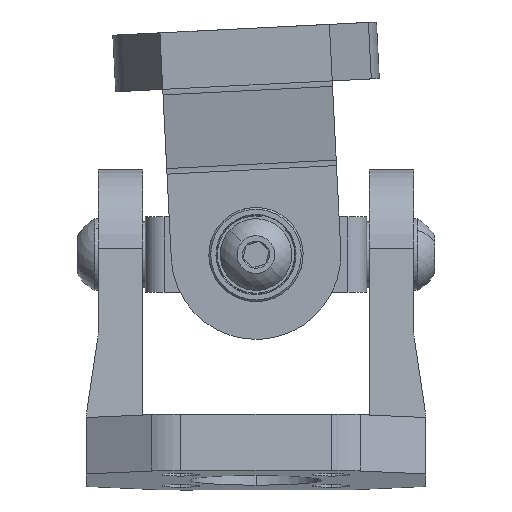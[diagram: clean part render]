
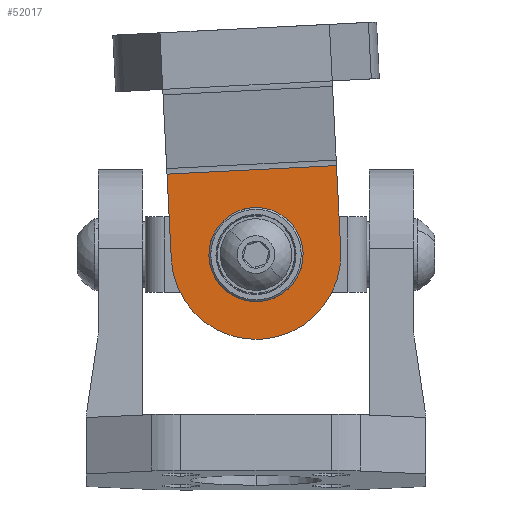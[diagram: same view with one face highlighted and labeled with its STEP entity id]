
A CAD part, left-side view. The second image highlights one B-rep face of the part: STEP entity #52017.
In plain terms, the highlighted planar face has unit normal (-1, 0, 0) as drawn and (1, 0, 0) by its records, which use the part's own axes.
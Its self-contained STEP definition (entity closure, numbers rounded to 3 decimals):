
#116 = AXIS2_PLACEMENT_3D ( 'NONE', #35561, #4139, #3969 ) ;
#1822 = VERTEX_POINT ( 'NONE', #19315 ) ;
#2246 = CARTESIAN_POINT ( 'NONE',  ( 16.75, 33., 5. ) ) ;
#3807 = VERTEX_POINT ( 'NONE', #20632 ) ;
#3969 = DIRECTION ( 'NONE',  ( 0., 1., 0. ) ) ;
#4139 = DIRECTION ( 'NONE',  ( -1., 0., 0. ) ) ;
#4805 = EDGE_CURVE ( 'NONE', #1822, #8804, #36177, .T. ) ;
#5341 = AXIS2_PLACEMENT_3D ( 'NONE', #35890, #48840, #32935 ) ;
#8804 = VERTEX_POINT ( 'NONE', #46533 ) ;
#11553 = ORIENTED_EDGE ( 'NONE', *, *, #41911, .T. ) ;
#13119 = LINE ( 'NONE', #34481, #51339 ) ;
#13415 = AXIS2_PLACEMENT_3D ( 'NONE', #37163, #17483, #33313 ) ;
#15828 = DIRECTION ( 'NONE',  ( -1., 0., 0. ) ) ;
#17483 = DIRECTION ( 'NONE',  ( 1., 0., 0. ) ) ;
#18143 = DIRECTION ( 'NONE',  ( 0., 0., -1. ) ) ;
#18787 = LINE ( 'NONE', #23048, #36424 ) ;
#19315 = CARTESIAN_POINT ( 'NONE',  ( 16.75, 33., 19. ) ) ;
#19604 = AXIS2_PLACEMENT_3D ( 'NONE', #35837, #15828, #43867 ) ;
#20489 = DIRECTION ( 'NONE',  ( 0., -1., 0. ) ) ;
#20632 = CARTESIAN_POINT ( 'NONE',  ( 16.75, 33., 15. ) ) ;
#22458 = FACE_BOUND ( 'NONE', #26765, .T. ) ;
#22874 = VECTOR ( 'NONE', #20489, 1000. ) ;
#23048 = CARTESIAN_POINT ( 'NONE',  ( 16.75, 0., 1. ) ) ;
#24044 = ORIENTED_EDGE ( 'NONE', *, *, #44734, .F. ) ;
#25361 = ORIENTED_EDGE ( 'NONE', *, *, #48426, .T. ) ;
#25491 = EDGE_CURVE ( 'NONE', #1822, #27765, #48552, .T. ) ;
#26226 = FACE_OUTER_BOUND ( 'NONE', #39877, .T. ) ;
#26765 = EDGE_LOOP ( 'NONE', ( #41197, #11553 ) ) ;
#27018 = CIRCLE ( 'NONE', #116, 5. ) ;
#27765 = VERTEX_POINT ( 'NONE', #28846 ) ;
#27771 = VERTEX_POINT ( 'NONE', #40924 ) ;
#28586 = CARTESIAN_POINT ( 'NONE',  ( 16.75, 0., 19. ) ) ;
#28846 = CARTESIAN_POINT ( 'NONE',  ( 16.75, 24., 19. ) ) ;
#32935 = DIRECTION ( 'NONE',  ( 0., 1., 0. ) ) ;
#33313 = DIRECTION ( 'NONE',  ( 0., 1., 0. ) ) ;
#34481 = CARTESIAN_POINT ( 'NONE',  ( 16.75, 24., 24. ) ) ;
#35020 = EDGE_CURVE ( 'NONE', #3807, #50552, #47634, .T. ) ;
#35561 = CARTESIAN_POINT ( 'NONE',  ( 16.75, 33., 10. ) ) ;
#35837 = CARTESIAN_POINT ( 'NONE',  ( 16.75, 33., 10. ) ) ;
#35890 = CARTESIAN_POINT ( 'NONE',  ( 16.75, 33., 10. ) ) ;
#36177 = CIRCLE ( 'NONE', #19604, 9. ) ;
#36424 = VECTOR ( 'NONE', #51078, 1000. ) ;
#37163 = CARTESIAN_POINT ( 'NONE',  ( 16.75, 0., 24. ) ) ;
#37507 = PLANE ( 'NONE',  #13415 ) ;
#39877 = EDGE_LOOP ( 'NONE', ( #24044, #47864, #44143, #25361 ) ) ;
#40924 = CARTESIAN_POINT ( 'NONE',  ( 16.75, 24., 1. ) ) ;
#41197 = ORIENTED_EDGE ( 'NONE', *, *, #35020, .T. ) ;
#41911 = EDGE_CURVE ( 'NONE', #50552, #3807, #27018, .T. ) ;
#43867 = DIRECTION ( 'NONE',  ( 0., 1., 0. ) ) ;
#44143 = ORIENTED_EDGE ( 'NONE', *, *, #25491, .T. ) ;
#44734 = EDGE_CURVE ( 'NONE', #8804, #27771, #18787, .T. ) ;
#46533 = CARTESIAN_POINT ( 'NONE',  ( 16.75, 33., 1. ) ) ;
#47634 = CIRCLE ( 'NONE', #5341, 5. ) ;
#47864 = ORIENTED_EDGE ( 'NONE', *, *, #4805, .F. ) ;
#48426 = EDGE_CURVE ( 'NONE', #27765, #27771, #13119, .T. ) ;
#48552 = LINE ( 'NONE', #28586, #22874 ) ;
#48840 = DIRECTION ( 'NONE',  ( -1., 0., 0. ) ) ;
#50552 = VERTEX_POINT ( 'NONE', #2246 ) ;
#51078 = DIRECTION ( 'NONE',  ( 0., -1., 0. ) ) ;
#51339 = VECTOR ( 'NONE', #18143, 1000. ) ;
#52017 = ADVANCED_FACE ( 'NONE', ( #26226, #22458 ), #37507, .T. ) ;
